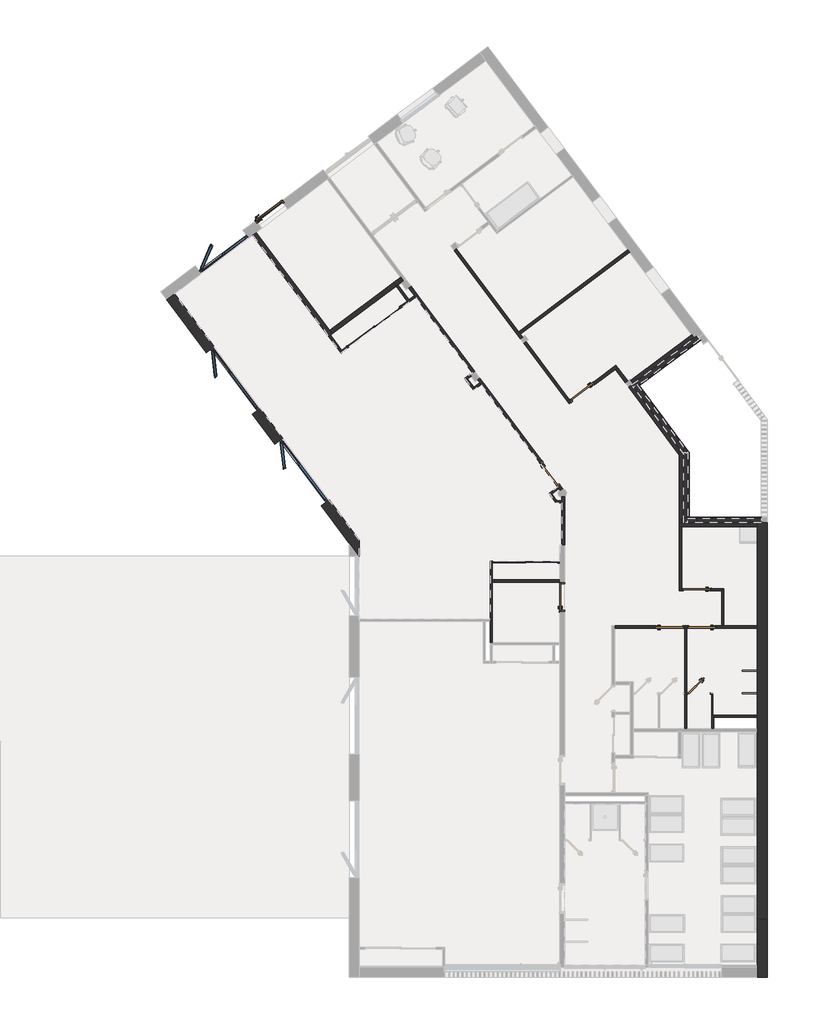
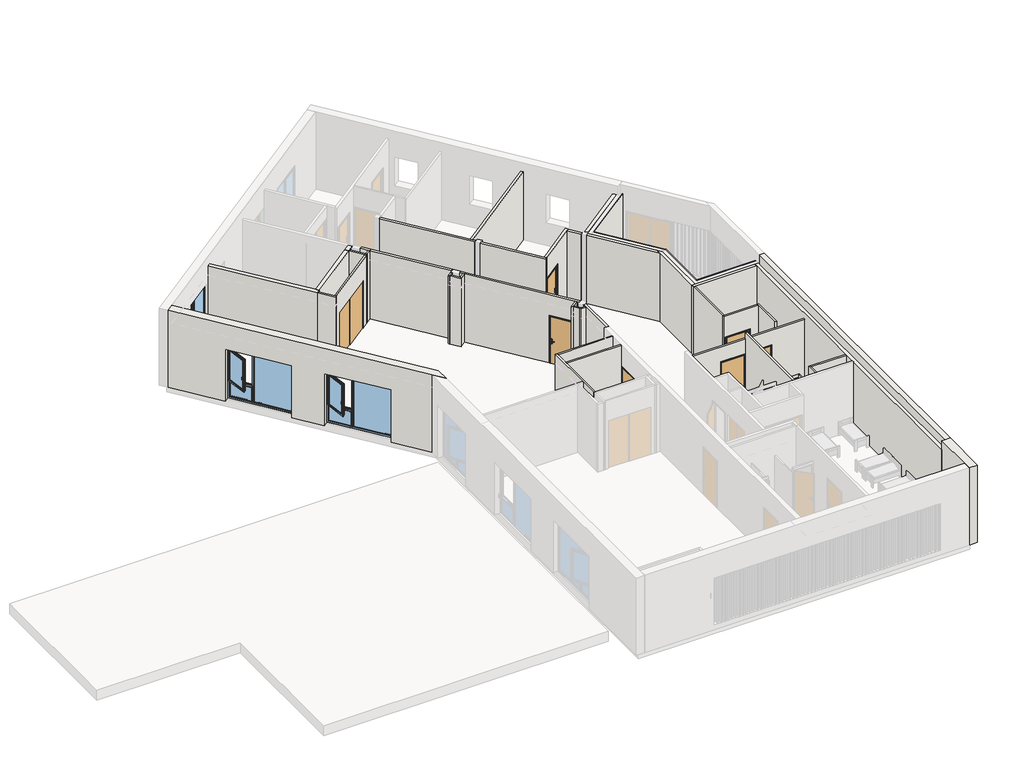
# One storey, part 2 of 4: 55 walls, 10 doors, 3 windows.
"""IFC4 building model written with IfcOpenShell, lengths in millimetres."""

from ifc_helpers import new_model, si_unit, frame, origin, place, context, project, spatial, polyline, outline, extrude, faceted_brep, transform, mapped, element, save
from components import door_1_10_x_2_25_61aac9a4, int_simple_pp_0_73m_x_2_04m_179cc70a, int_simple_pp_0_93m_x_2_04m_b2d4c190, int_simple_pp_0_93m_x_2_04m_4f2bf630, int_simple_pp_0_93m_x_2_04m_e56fa8e8, int_simple_pp_0_93m_x_2_04m_fca377b9, placard_coulissante_2_panneaux_placard_coulissante_2_81d75f8f, placard_coulissante_2_panneaux_placard_coulissante_2_653aa74b, window_49c83c31, window_247b9f68, window_944cba15, window_c5311feb

model = new_model("IFC4")

# Units and contexts
model_context = context("Model", 3, world=origin())
ifc_project = project(units=[si_unit("LENGTHUNIT", "METRE", prefix="MILLI")], contexts=[model_context])

# Site, building, storey
site = spatial("IfcSite", under=ifc_project)
building = spatial("IfcBuilding", under=site)
storey = spatial("IfcBuildingStorey", under=building, Name="1 Cdl 1er 3.95", Elevation=3950.0)

# Doors
placement = place(None, origin())
door_1_10_x_2_25_shape = door_1_10_x_2_25_61aac9a4(model_context)
element("IfcDoor", 1, ObjectType="Porte vitrée MéO : 1.10 x 2.25", at=placement, inside=storey, context=model_context, shape_type="MappedRepresentation", body=[
    mapped(door_1_10_x_2_25_shape, transform((-14696.0305048, 9775.4074152, 3950.0), x_axis=(-0.8000996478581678, -0.5998671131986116, 0.0), y_axis=(0.5998671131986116, -0.8000996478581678, 0.0), z_axis=(0.0, 0.0, 1.0))),
])
int_simple_pp_0_73m_x_2_04m_shape = int_simple_pp_0_73m_x_2_04m_179cc70a(model_context)
element("IfcDoor", 2, ObjectType="Int. Simple : PP (0.73m x 2.04m)", at=placement, inside=storey, context=model_context, shape_type="MappedRepresentation", body=[
    mapped(int_simple_pp_0_73m_x_2_04m_shape, transform((-208.9232835, -6492.3510598, 3950.0), x_axis=(-1.0, 0.0, 0.0), y_axis=(0.0, -1.0, 0.0), z_axis=(0.0, 0.0, 1.0))),
])
int_simple_pp_0_93m_x_2_04m_shape = int_simple_pp_0_93m_x_2_04m_b2d4c190(model_context)
element("IfcDoor", 3, ObjectType="Int. Simple : PP (0.93m x 2.04m)", at=placement, inside=storey, context=model_context, shape_type="MappedRepresentation", body=[
    mapped(int_simple_pp_0_93m_x_2_04m_shape, transform((-1150.3954629, -4237.3504346, 3950.0), x_axis=(1.0, 0.0, 0.0), y_axis=(0.0, 1.0, 0.0), z_axis=(0.0, 0.0, 1.0))),
])
element("IfcDoor", 4, ObjectType="Int. Simple : PP (0.93m x 2.04m)", at=placement, inside=storey, context=model_context, shape_type="MappedRepresentation", body=[
    mapped(int_simple_pp_0_93m_x_2_04m_shape, transform((-293.0765827, -2966.6217903, 3950.0), x_axis=(-1.0, 0.0, 0.0), y_axis=(0.0, -1.0, 0.0), z_axis=(0.0, 0.0, 1.0))),
])
int_simple_pp_0_93m_x_2_04m_2_shape = int_simple_pp_0_93m_x_2_04m_4f2bf630(model_context)
element("IfcDoor", 5, ObjectType="Int. Simple : PP (0.93m x 2.04m)", at=placement, inside=storey, context=model_context, shape_type="MappedRepresentation", body=[
    mapped(int_simple_pp_0_93m_x_2_04m_2_shape, transform((-4171.9652152, 3723.2192967, 3950.0), x_axis=(-0.8000994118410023, -0.5998674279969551, 0.0), y_axis=(0.5998674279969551, -0.8000994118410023, 0.0), z_axis=(0.0, 0.0, 1.0))),
])
element("IfcDoor", 6, ObjectType="Int. Simple : PP (0.93m x 2.04m)", at=placement, inside=storey, context=model_context, shape_type="MappedRepresentation", body=[
    mapped(int_simple_pp_0_93m_x_2_04m_2_shape, transform((-5227.8960413, 939.6066088, 3950.0), x_axis=(0.5998089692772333, -0.8001432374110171, 0.0), y_axis=(0.8001432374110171, 0.5998089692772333, 0.0), z_axis=(0.0, 0.0, 1.0))),
])
int_simple_pp_0_93m_x_2_04m_3_shape = int_simple_pp_0_93m_x_2_04m_e56fa8e8(model_context)
element("IfcDoor", 7, ObjectType="Int. Simple : PP (0.93m x 2.04m)", at=placement, inside=storey, context=model_context, shape_type="MappedRepresentation", body=[
    mapped(int_simple_pp_0_93m_x_2_04m_3_shape, transform((-120.3954629, -4237.3504346, 3950.0), x_axis=(-1.0, 0.0, 0.0), y_axis=(0.0, -1.0, 0.0), z_axis=(0.0, 0.0, 1.0))),
])
int_simple_pp_0_93m_x_2_04m_4_shape = int_simple_pp_0_93m_x_2_04m_fca377b9(model_context)
element("IfcDoor", 8, ObjectType="Int. Simple : PP (0.93m x 2.04m)", at=placement, inside=storey, context=model_context, shape_type="MappedRepresentation", body=[
    mapped(int_simple_pp_0_93m_x_2_04m_4_shape, transform((-4828.5161429, -3184.5655769, 3950.0), x_axis=(0.0, 1.0, 0.0), y_axis=(-1.0, 0.0, 0.0), z_axis=(0.0, 0.0, 1.0))),
])
placard_coulissante_2_panneaux_placard_coulissante_2_shape = placard_coulissante_2_panneaux_placard_coulissante_2_81d75f8f(model_context)
element("IfcDoor", 9, ObjectType="Placard coulissante - 2 panneaux : Placard coulissante - 2 panneaux 2.20", at=placement, inside=storey, context=model_context, shape_type="MappedRepresentation", body=[
    mapped(placard_coulissante_2_panneaux_placard_coulissante_2_shape, transform((-11220.3962593, 5958.0247234, 3950.0), x_axis=(-0.8000996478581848, -0.5998671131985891, 0.0), y_axis=(0.5998671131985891, -0.8000996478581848, 0.0), z_axis=(0.0, 0.0, 1.0))),
])
placard_coulissante_2_panneaux_placard_coulissante_2_2_shape = placard_coulissante_2_panneaux_placard_coulissante_2_653aa74b(model_context)
element("IfcDoor", 10, ObjectType="Placard coulissante - 2 panneaux : Placard coulissante - 2 panneaux 2.20", at=placement, inside=storey, context=model_context, shape_type="MappedRepresentation", body=[
    mapped(placard_coulissante_2_panneaux_placard_coulissante_2_2_shape, transform((-6085.4487902, -2040.7588726, 3950.0), x_axis=(1.0, 0.0, 0.0), y_axis=(0.0, 1.0, 0.0), z_axis=(0.0, 0.0, 1.0))),
])

# Walls
element("IfcWall", 11, ObjectType="A  Enduit 2 + Béton 18 + vide 1 +  Doublage 14", at=placement, inside=storey, context=model_context, shape_type="Brep", body=[
    faceted_brep([(2136.9234173, -16148.5662223, 3950.0), (2136.9234173, -14176.4188476, 3950.0), (2136.9234173, -14176.4188476, 7350.0), (2136.9234173, -16148.5662223, 7350.0), (1796.9234173, -16148.5662223, 3950.0), (1796.9234173, -16148.5662223, 7350.0), (1796.9234173, -15808.5662223, 7350.0), (1796.9234173, -14176.4188476, 7350.0), (1796.9234173, -14176.4188476, 6950.0), (1796.9234173, -14176.4188476, 3950.0), (1796.9234173, -15808.5662223, 3950.0), (1936.9234173, -14176.4188476, 7350.0)], [[[0, 1, 2, 3]], [[4, 5, 6, 7, 8, 9, 10]], [[1, 0, 4, 10, 9]], [[2, 1, 9, 8, 7, 11]], [[3, 2, 11, 7, 6, 5]], [[0, 3, 5, 4]]]),
])
element("IfcWall", 12, ObjectType="A Béton 20 + vide 1 +  Doublage 14", at=placement, inside=storey, context=model_context, shape_type="Brep", body=[
    faceted_brep([(2136.9234173, -14176.4188476, 3950.0), (2136.9234173, -692.3564392, 3950.0), (2136.9234173, -692.3564392, 6950.0), (2136.9234173, -762.3564392, 6950.0), (2136.9234173, -762.3564392, 7350.0), (2136.9234173, -14176.4188476, 7350.0), (1796.9234173, -692.3564392, 3950.0), (1796.9234173, -832.3564392, 3950.0), (1796.9234173, -14176.4188476, 3950.0), (1796.9234173, -14176.4188476, 6950.0), (1796.9234173, -832.3564392, 6950.0), (1796.9234173, -692.3564392, 6950.0), (1936.9234173, -692.3564392, 3950.0), (1936.9234173, -762.3564392, 7350.0), (1936.9234173, -14176.4188476, 7350.0), (1936.9234173, -14176.4188476, 6950.0), (1936.9234173, -762.3564392, 6950.0), (1936.9234173, -692.3564392, 6950.0)], [[[0, 1, 2, 3, 4, 5]], [[6, 7, 8, 9, 10, 11]], [[1, 0, 8, 7, 6, 12]], [[5, 4, 13, 14]], [[0, 5, 14, 15, 9, 8]], [[16, 15, 14, 13]], [[4, 3, 16, 13]], [[3, 2, 17, 11, 10, 9, 15, 16]], [[1, 12, 6, 11, 17, 2]]]),
])
element("IfcWall", 13, ObjectType="A Béton 20 + vide 1 +  Doublage 14", at=placement, inside=storey, context=model_context, shape_type="Brep", body=[
    faceted_brep([(-11725.9579574, -1851.3338689, 7350.0), (-12065.9579574, -1397.8436303, 7350.0), (-18273.0278755, 6881.1140695, 7350.0), (-18273.0278755, 6881.1140695, 3950.0), (-16931.613685, 5091.9427717, 3950.0), (-16931.613685, 5091.9427717, 6250.0), (-15359.9618484, 2995.6816944, 6250.0), (-15359.9618484, 2995.6816944, 3950.0), (-14598.136421, 1979.562886, 3950.0), (-14598.136421, 1979.562886, 6250.0), (-13026.4845844, -116.6981914, 6250.0), (-13026.4845844, -116.6981914, 3950.0), (-12065.9579574, -1397.8436303, 3950.0), (-11741.0032693, -1831.2665098, 3950.0), (-11741.0032693, -1831.2665098, 6250.0), (-11725.9579574, -1851.3338689, 6250.0), (-18000.9939952, 7085.068888, 7350.0), (-11725.9579574, -1284.5416702, 7350.0), (-11725.9579574, -1284.5416702, 3950.0), (-12754.4507041, 87.2566271, 3950.0), (-12754.4507041, 87.2566271, 6250.0), (-14326.1025407, 2183.5177045, 6250.0), (-14326.1025407, 2183.5177045, 3950.0), (-15087.9279681, 3199.6365128, 3950.0), (-15087.9279681, 3199.6365128, 6250.0), (-16659.5798047, 5295.8975902, 6250.0), (-16659.5798047, 5295.8975902, 3950.0), (-18000.9939952, 7085.068888, 3950.0), (-11725.9579574, -1831.2665098, 3950.0), (-11725.9579574, -1831.2665098, 6250.0)], [[[0, 1, 2, 3, 4, 5, 6, 7, 8, 9, 10, 11, 12, 13, 14, 15]], [[16, 17, 18, 19, 20, 21, 22, 23, 24, 25, 26, 27]], [[3, 27, 26, 4]], [[28, 13, 12, 11, 19, 18]], [[7, 23, 22, 8]], [[2, 1, 0, 17, 16]], [[3, 2, 16, 27]], [[18, 17, 0, 15, 29, 28]], [[14, 29, 15]], [[29, 14, 13, 28]], [[25, 5, 4, 26]], [[5, 25, 24, 6]], [[6, 24, 23, 7]], [[21, 9, 8, 22]], [[9, 21, 20, 10]], [[10, 20, 19, 11]]]),
])
element("IfcWall", 14, ObjectType="A cloison placostil 72 sèche", at=placement, inside=storey, context=model_context, shape_type="Brep", body=[
    faceted_brep([(1796.9234173, -4272.3504346, 3950.0), (1796.9234173, -4272.3504346, 6700.0), (-3050.395491, -4272.3504346, 6700.0), (-3050.395491, -4272.3504346, 3950.0), (-1685.3954629, -4272.3504346, 3950.0), (-1685.3954629, -4272.3504346, 6025.0), (-685.3954629, -4272.3504346, 6025.0), (-685.3954629, -4272.3504346, 3950.0), (-670.3954629, -4272.3504346, 3950.0), (-600.3954629, -4272.3504346, 3950.0), (-585.3954629, -4272.3504346, 3950.0), (-585.3954629, -4272.3504346, 6025.0), (414.6045371, -4272.3504346, 6025.0), (414.6045371, -4272.3504346, 3950.0), (1796.9234173, -4202.3504346, 6700.0), (1796.9234173, -4202.3504346, 3950.0), (669.6045371, -4202.3504346, 3950.0), (599.6045371, -4202.3504346, 3950.0), (414.6045371, -4202.3504346, 3950.0), (414.6045371, -4202.3504346, 6025.0), (-585.3954629, -4202.3504346, 6025.0), (-585.3954629, -4202.3504346, 3950.0), (-685.3954629, -4202.3504346, 3950.0), (-685.3954629, -4202.3504346, 6025.0), (-1685.3954629, -4202.3504346, 6025.0), (-1685.3954629, -4202.3504346, 3950.0), (-3050.395491, -4202.3504346, 3950.0), (-3050.395491, -4202.3504346, 6700.0)], [[[0, 1, 2, 3, 4, 5, 6, 7, 8, 9, 10, 11, 12, 13]], [[14, 15, 16, 17, 18, 19, 20, 21, 22, 23, 24, 25, 26, 27]], [[15, 0, 13, 18, 17, 16]], [[3, 26, 25, 4]], [[7, 22, 21, 10, 9, 8]], [[1, 0, 15, 14]], [[2, 1, 14, 27]], [[3, 2, 27, 26]], [[6, 23, 22, 7]], [[23, 6, 5, 24]], [[24, 5, 4, 25]], [[20, 11, 10, 21]], [[11, 20, 19, 12]], [[12, 19, 18, 13]]]),
])
element("IfcWall", 15, ObjectType="A cloison placostil 72 sèche", at=placement, inside=storey, context=model_context, shape_type="Brep", body=[
    faceted_brep([(669.6045371, -4202.3504346, 3950.0), (669.6045371, -2931.6217903, 3950.0), (669.6045371, -2931.6217903, 6950.0), (669.6045371, -4202.3504346, 6950.0), (599.6045371, -4202.3504346, 3950.0), (599.6045371, -4202.3504346, 6950.0), (599.6045371, -3001.6217903, 6950.0), (599.6045371, -2931.6217903, 6950.0), (599.6045371, -2931.6217903, 3950.0), (599.6045371, -3001.6217903, 3950.0)], [[[0, 1, 2, 3]], [[4, 5, 6, 7, 8, 9]], [[1, 0, 4, 9, 8]], [[3, 2, 7, 6, 5]], [[0, 3, 5, 4]], [[2, 1, 8, 7]]]),
])
element("IfcWall", 16, ObjectType="A cloison placostil 72 sèche", at=placement, inside=storey, context=model_context, shape_type="Brep", body=[
    faceted_brep([(-843.0765827, -2931.6217903, 6950.0), (-773.0765827, -2931.6217903, 6950.0), (599.6045371, -2931.6217903, 6950.0), (599.6045371, -2931.6217903, 3950.0), (241.9234173, -2931.6217903, 3950.0), (241.9234173, -2931.6217903, 6025.0), (-758.0765827, -2931.6217903, 6025.0), (-758.0765827, -2931.6217903, 3950.0), (-773.0765827, -2931.6217903, 3950.0), (-843.0765827, -2931.6217903, 3950.0), (599.6045371, -3001.6217903, 6950.0), (-843.0765827, -3001.6217903, 6950.0), (-843.0765827, -3001.6217903, 3950.0), (-758.0765827, -3001.6217903, 3950.0), (-758.0765827, -3001.6217903, 6025.0), (241.9234173, -3001.6217903, 6025.0), (241.9234173, -3001.6217903, 3950.0), (599.6045371, -3001.6217903, 3950.0)], [[[0, 1, 2, 3, 4, 5, 6, 7, 8, 9]], [[10, 11, 12, 13, 14, 15, 16, 17]], [[3, 17, 16, 4]], [[12, 9, 8, 7, 13]], [[2, 1, 0, 11, 10]], [[3, 2, 10, 17]], [[0, 9, 12, 11]], [[6, 14, 13, 7]], [[14, 6, 5, 15]], [[15, 5, 4, 16]]]),
])
element("IfcWall", 17, ObjectType="A cloison placostil 72 sèche", at=placement, inside=storey, context=model_context, shape_type="SweptSolid", body=[
    extrude(outline(polyline([(-773.0765827, -832.3564392), (-773.0765827, -2931.6217903), (-843.0765827, -2931.6217903), (-843.0765827, -832.3564392), (-773.0765827, -832.3564392)])), frame((0.0, 0.0, 3950.0), z_axis=(0.0, 0.0, 1.0), x_axis=(1.0, 0.0, 0.0)), (0.0, 0.0, 1.0), 3000.0),
])
element("IfcWall", 18, ObjectType="A cloison placostil 72 sèche", at=placement, inside=storey, context=model_context, shape_type="SweptSolid", body=[
    extrude(outline(polyline([(-600.3954629, -4272.3504346), (-600.3954629, -7702.5539694), (-670.3954629, -7702.5539694), (-670.3954629, -4272.3504346), (-600.3954629, -4272.3504346)])), frame((0.0, 0.0, 3950.0), z_axis=(0.0, 0.0, 1.0), x_axis=(1.0, 0.0, 0.0)), (0.0, 0.0, 1.0), 3000.0),
])
element("IfcWall", 19, ObjectType="A cloison placostil 72 sèche", at=placement, inside=storey, context=model_context, shape_type="Brep", body=[
    faceted_brep([(-7202.3814374, -4776.0460811, 3950.0), (-7202.3814374, -2708.5655769, 3950.0), (-7202.3814374, -2638.5655769, 3950.0), (-7202.3814374, -2075.7588726, 3950.0), (-7202.3814374, -2005.7588726, 3950.0), (-7202.3814374, -2005.7588726, 6950.0), (-7202.3814374, -2075.7588726, 6950.0), (-7202.3814374, -2638.5655769, 6950.0), (-7202.3814374, -2708.5655769, 6950.0), (-7202.3814374, -4776.0460811, 6950.0), (-7272.3814374, -4776.0460811, 3950.0), (-7272.3814374, -4776.0460811, 6950.0), (-7272.3814374, -4042.1419324, 6950.0), (-7272.3814374, -3972.1419324, 6950.0), (-7272.3814374, -2005.7588726, 6950.0), (-7272.3814374, -2005.7588726, 3950.0), (-7272.3814374, -3972.1419324, 3950.0), (-7272.3814374, -4042.1419324, 3950.0)], [[[0, 1, 2, 3, 4, 5, 6, 7, 8, 9]], [[10, 11, 12, 13, 14, 15, 16, 17]], [[4, 3, 2, 1, 0, 10, 17, 16, 15]], [[9, 8, 7, 6, 5, 14, 13, 12, 11]], [[0, 9, 11, 10]], [[5, 4, 15, 14]]]),
])
element("IfcWall", 20, ObjectType="A cloison placostil 72 sèche", at=placement, inside=storey, context=model_context, shape_type="SweptSolid", body=[
    extrude(outline(polyline([(6950.0, -4918.5161429), (6950.0, -7202.3814374), (3950.0, -7202.3814374), (3950.0, -7185.4487902), (6050.0, -7185.4487902), (6050.0, -4985.4487902), (3950.0, -4985.4487902), (3950.0, -4918.5161429), (6950.0, -4918.5161429)])), frame((0.0, -2075.7588726, 0.0), z_axis=(0.0, 1.0, 0.0), x_axis=(0.0, 0.0, 1.0)), (0.0, 0.0, 1.0), 70.0),
])
element("IfcWall", 21, ObjectType="A cloison placostil 72 sèche", at=placement, inside=storey, context=model_context, shape_type="SweptSolid", body=[
    extrude(outline(polyline([(-4918.5161429, -2708.5655769), (-7202.3814374, -2708.5655769), (-7202.3814374, -2638.5655769), (-4918.5161429, -2638.5655769), (-4918.5161429, -2708.5655769)])), frame((0.0, 0.0, 3950.0), z_axis=(0.0, 0.0, 1.0), x_axis=(1.0, 0.0, 0.0)), (0.0, 0.0, 1.0), 3000.0),
])
element("IfcWall", 22, ObjectType="A cloison placostil 72 sèche", at=placement, inside=storey, context=model_context, shape_type="Brep", body=[
    faceted_brep([(322.548896, -7702.5539694, 3950.0), (322.548896, -7304.3232508, 3950.0), (322.548896, -7234.3232508, 3950.0), (322.548896, -7234.3232508, 6950.0), (322.548896, -7304.3232508, 6950.0), (322.548896, -7702.5539694, 6950.0), (252.548896, -7702.5539694, 3950.0), (252.548896, -7702.5539694, 6950.0), (252.548896, -7234.3232508, 6950.0), (252.548896, -7234.3232508, 3950.0)], [[[0, 1, 2, 3, 4, 5]], [[6, 7, 8, 9]], [[2, 1, 0, 6, 9]], [[5, 4, 3, 8, 7]], [[0, 5, 7, 6]], [[3, 2, 9, 8]]]),
])
element("IfcWall", 23, ObjectType="A cloison placostil 72 sèche", at=placement, inside=storey, context=model_context, shape_type="SweptSolid", body=[
    extrude(outline(polyline([(1796.9234173, -7304.3232508), (322.548896, -7304.3232508), (322.548896, -7234.3232508), (1796.9234173, -7234.3232508), (1796.9234173, -7304.3232508)])), frame((0.0, 0.0, 3950.0), z_axis=(0.0, 0.0, 1.0), x_axis=(1.0, 0.0, 0.0)), (0.0, 0.0, 1.0), 3000.0),
])
element("IfcWall", 24, ObjectType="A cloison placostil 98 sèche", at=placement, inside=storey, context=model_context, shape_type="Brep", body=[
    faceted_brep([(-6134.9037126, 5399.4995717, 3950.0), (-4594.0280115, 3344.2892293, 3950.0), (-4594.0280115, 3344.2892293, 6950.0), (-6134.9037126, 5399.4995717, 6950.0), (-6054.8937714, 5459.4863145, 6950.0), (-4574.0048132, 3484.2859133, 6950.0), (-4514.0180704, 3404.2759721, 6950.0), (-4514.0180704, 3404.2759721, 6025.0), (-4514.0180704, 3404.2759721, 3950.0), (-4574.0048132, 3484.2859133, 3950.0), (-6054.8937714, 5459.4863145, 3950.0)], [[[0, 1, 2, 3]], [[4, 5, 6, 7, 8, 9, 10]], [[1, 0, 10, 9, 8]], [[3, 2, 6, 5, 4]], [[0, 3, 4, 10]], [[2, 1, 8, 7, 6]]]),
])
element("IfcWall", 25, ObjectType="A cloison placostil 98 sèche", at=placement, inside=storey, context=model_context, shape_type="Brep", body=[
    faceted_brep([(-2944.9224639, 4580.6914672, 6950.0), (-3024.9324051, 4520.7047244, 6950.0), (-4514.0180704, 3404.2759721, 6950.0), (-4514.0180704, 3404.2759721, 6025.0), (-3713.9186585, 4004.1434001, 6025.0), (-3713.9186585, 4004.1434001, 3950.0), (-3024.9324051, 4520.7047244, 3950.0), (-2944.9224639, 4580.6914672, 3950.0), (-4574.0048132, 3484.2859133, 6950.0), (-3004.9092067, 4660.7014084, 6950.0), (-3004.9092067, 4660.7014084, 3950.0), (-3773.9054013, 4084.1533413, 3950.0), (-3773.9054013, 4084.1533413, 6025.0), (-4574.0048132, 3484.2859133, 6025.0)], [[[0, 1, 2, 3, 4, 5, 6, 7]], [[8, 9, 10, 11, 12, 13]], [[10, 7, 6, 5, 11]], [[2, 1, 0, 9, 8]], [[2, 8, 13, 3]], [[0, 7, 10, 9]], [[12, 4, 3, 13]], [[4, 12, 11, 5]]]),
])
element("IfcWall", 26, ObjectType="A cloison placostil 98 sèche", at=placement, inside=storey, context=model_context, shape_type="SweptSolid", body=[
    extrude(outline(polyline([(-2687.1952496, 4070.2330253), (-3024.9324051, 4520.7047244), (-2944.9224639, 4580.6914672), (-2607.1853084, 4130.2197681), (-2687.1952496, 4070.2330253)])), frame((0.0, 0.0, 3950.0), z_axis=(0.0, 0.0, 1.0), x_axis=(1.0, 0.0, 0.0)), (0.0, 0.0, 1.0), 3000.0),
])
element("IfcWall", 27, ObjectType="A cloison placostil 98 sèche", at=placement, inside=storey, context=model_context, shape_type="Brep", body=[
    faceted_brep([(-6174.8673042, 5619.5062599, 3950.0), (-6250.8904159, 5720.9054095, 3950.0), (-6310.8771587, 5800.9153507, 3950.0), (-8423.9911752, 8619.3735716, 3950.0), (-8423.9911752, 8619.3735716, 6950.0), (-6310.8771587, 5800.9153507, 6950.0), (-6250.8904159, 5720.9054095, 6950.0), (-6174.8673042, 5619.5062599, 6950.0), (-6254.8772454, 5559.5195171, 3950.0), (-6254.8772454, 5559.5195171, 6950.0), (-8504.0011164, 8559.3868288, 6950.0), (-8504.0011164, 8559.3868288, 3950.0)], [[[0, 1, 2, 3, 4, 5, 6, 7]], [[8, 9, 10, 11]], [[3, 2, 1, 0, 8, 11]], [[4, 3, 11, 10]], [[7, 6, 5, 4, 10, 9]], [[0, 7, 9, 8]]]),
])
element("IfcWall", 28, ObjectType="A cloison placostil 98 sèche", at=placement, inside=storey, context=model_context, shape_type="SweptSolid", body=[
    extrude(outline(polyline([(-2539.3284757, 8503.613729), (-6250.8904159, 5720.9054095), (-6310.8771587, 5800.9153507), (-2599.315187, 8583.6236938), (-2539.3284757, 8503.613729)])), frame((0.0, 0.0, 3950.0), z_axis=(0.0, 0.0, 1.0), x_axis=(1.0, 0.0, 0.0)), (0.0, 0.0, 1.0), 3000.0),
])
element("IfcWall", 29, ObjectType="A cloison placostil 140 sèche", at=placement, inside=storey, context=model_context, shape_type="Brep", body=[
    faceted_brep([(-15341.401053, 9079.0734408, 3950.0), (-12759.3851365, 5635.193988, 3950.0), (-12759.3851365, 5635.193988, 6950.0), (-15341.401053, 9079.0734408, 6950.0), (-15221.3861058, 9169.0535078, 3950.0), (-15221.3861058, 9169.0535078, 6950.0), (-12729.3502563, 5845.1890022, 6950.0), (-12639.3701893, 5725.174055, 6950.0), (-12639.3701893, 5725.174055, 3950.0), (-12729.3502563, 5845.1890022, 3950.0), (-12703.3781612, 5677.1846859, 3950.0), (-12703.3781612, 5677.1846859, 6950.0)], [[[0, 1, 2, 3]], [[4, 5, 6, 7, 8, 9]], [[1, 0, 4, 9, 8, 10]], [[3, 2, 11, 7, 6, 5]], [[0, 3, 5, 4]], [[2, 1, 10, 8, 7, 11]]]),
])
element("IfcWall", 30, ObjectType="A cloison placostil 140 sèche", at=placement, inside=storey, context=model_context, shape_type="SweptSolid", body=[
    extrude(outline(polyline([(-10475.6737529, 7347.3849116), (-12639.3701893, 5725.174055), (-12729.3502563, 5845.1890022), (-10565.6538199, 7467.3998588), (-10475.6737529, 7347.3849116)])), frame((0.0, 0.0, 3950.0), z_axis=(0.0, 0.0, 1.0), x_axis=(1.0, 0.0, 0.0)), (0.0, 0.0, 1.0), 3000.0),
])
element("IfcWall", 31, ObjectType="A cloison placostil 72 sèche", at=placement, inside=storey, context=model_context, shape_type="Brep", body=[
    faceted_brep([(-10475.6737529, 7347.3849116, 3950.0), (-10055.9764866, 6787.5948721, 3950.0), (-10055.9764866, 6787.5948721, 6950.0), (-10475.6737529, 7347.3849116, 6950.0), (-10419.6667776, 7389.3756095, 3950.0), (-10419.6667776, 7389.3756095, 6950.0), (-10041.9602092, 6885.5925454, 6950.0), (-9999.9695112, 6829.58557, 6950.0), (-9999.9695112, 6829.58557, 3950.0), (-10041.9602092, 6885.5925454, 3950.0)], [[[0, 1, 2, 3]], [[4, 5, 6, 7, 8, 9]], [[1, 0, 4, 9, 8]], [[3, 2, 7, 6, 5]], [[2, 1, 8, 7]], [[0, 3, 5, 4]]]),
])
element("IfcWall", 32, ObjectType="A cloison placostil 72 sèche", at=placement, inside=storey, context=model_context, shape_type="SweptSolid", body=[
    extrude(outline(polyline([(-9812.6424921, 6970.0322238), (-9999.9695112, 6829.58557), (-10041.9602092, 6885.5925454), (-9854.63319, 7026.0391991), (-9812.6424921, 6970.0322238)])), frame((0.0, 0.0, 3950.0), z_axis=(0.0, 0.0, 1.0), x_axis=(1.0, 0.0, 0.0)), (0.0, 0.0, 1.0), 3000.0),
])
element("IfcWall", 33, ObjectType="A cloison placostil 98 sèche", at=placement, inside=storey, context=model_context, shape_type="SweptSolid", body=[
    extrude(outline(polyline([(-9811.0155959, 6971.4233711), (-10043.2419039, 7281.1656176), (-9963.2319391, 7341.1523289), (-9731.0056311, 7031.4100824), (-9811.0155959, 6971.4233711)])), frame((0.0, 0.0, 3950.0), z_axis=(0.0, 0.0, 1.0), x_axis=(1.0, 0.0, 0.0)), (0.0, 0.0, 1.0), 3000.0),
])
element("IfcWall", 34, ObjectType="A cloison placostil 98 sèche", at=placement, inside=storey, context=model_context, shape_type="SweptSolid", body=[
    extrude(outline(polyline([(-7884.7889511, 4399.9222442), (-9810.878416, 6971.5568646), (-9730.8390453, 7031.5043344), (-7804.7495804, 4459.869714), (-7884.7889511, 4399.9222442)])), frame((0.0, 0.0, 3950.0), z_axis=(0.0, 0.0, 1.0), x_axis=(1.0, 0.0, 0.0)), (0.0, 0.0, 1.0), 3000.0),
])
element("IfcWall", 35, ObjectType="A cloison placostil 98 sèche", at=placement, inside=storey, context=model_context, shape_type="SweptSolid", body=[
    extrude(outline(polyline([(-7586.8909269, 4003.1383314), (-7704.7711592, 4159.5706832), (-7624.9076082, 4219.7521855), (-7506.9518637, 4063.2196256), (-7586.8909269, 4003.1383314)])), frame((0.0, 0.0, 3950.0), z_axis=(0.0, 0.0, 1.0), x_axis=(1.0, 0.0, 0.0)), (0.0, 0.0, 1.0), 3000.0),
])
element("IfcWall", 36, ObjectType="A cloison placostil 98 sèche", at=placement, inside=storey, context=model_context, shape_type="Brep", body=[
    faceted_brep([(-4891.9641752, 408.1147053, 3950.0), (-4891.9641752, 408.1147053, 6950.0), (-4938.00827, 469.5373798, 6950.0), (-4979.9948979, 525.5474064, 6950.0), (-7586.8909269, 4003.1383314, 6950.0), (-7586.8909269, 4003.1383314, 3950.0), (-5588.8010017, 1337.6927924, 3950.0), (-5588.8010017, 1337.6927924, 6025.0), (-4988.9920324, 537.5495549, 6025.0), (-4988.9920324, 537.5495549, 3950.0), (-4979.9948979, 525.5474064, 3950.0), (-4938.00827, 469.5373798, 3950.0), (-4811.9498515, 468.0956022, 6950.0), (-4811.9498515, 468.0956022, 3950.0), (-4908.9777087, 597.5304519, 3950.0), (-4908.9777087, 597.5304519, 6025.0), (-5508.7866779, 1397.6736893, 6025.0), (-5508.7866779, 1397.6736893, 3950.0), (-7506.9518637, 4063.2196256, 3950.0), (-7506.9518637, 4063.2196256, 6950.0)], [[[0, 1, 2, 3, 4, 5, 6, 7, 8, 9, 10, 11]], [[12, 13, 14, 15, 16, 17, 18, 19]], [[13, 0, 11, 10, 9, 14]], [[5, 18, 17, 6]], [[1, 0, 13, 12]], [[4, 3, 2, 1, 12, 19]], [[5, 4, 19, 18]], [[8, 15, 14, 9]], [[15, 8, 7, 16]], [[16, 7, 6, 17]]]),
])
element("IfcWall", 37, ObjectType="A cloison placostil 72 sèche", at=placement, inside=storey, context=model_context, shape_type="Brep", body=[
    faceted_brep([(-4979.9948979, 525.5474064, 3950.0), (-5276.0258591, 303.634607, 3950.0), (-5276.0258591, 303.634607, 6950.0), (-4979.9948979, 525.5474064, 6950.0), (-4938.00827, 469.5373798, 3950.0), (-4938.00827, 469.5373798, 6950.0), (-5178.0292047, 289.6112082, 6950.0), (-5234.0392313, 247.6245803, 6950.0), (-5234.0392313, 247.6245803, 3950.0), (-5178.0292047, 289.6112082, 3950.0)], [[[0, 1, 2, 3]], [[4, 5, 6, 7, 8, 9]], [[1, 0, 4, 9, 8]], [[3, 2, 7, 6, 5]], [[0, 3, 5, 4]], [[2, 1, 8, 7]]]),
])
element("IfcWall", 38, ObjectType="A cloison placostil 72 sèche", at=placement, inside=storey, context=model_context, shape_type="SweptSolid", body=[
    extrude(outline(polyline([(-5094.9246107, 62.0461236), (-5234.0392313, 247.6245803), (-5178.0292047, 289.6112082), (-5007.4402745, 62.0461236), (-5094.9246107, 62.0461236)])), frame((0.0, 0.0, 3950.0), z_axis=(0.0, 0.0, 1.0), x_axis=(1.0, 0.0, 0.0)), (0.0, 0.0, 1.0), 3000.0),
])
element("IfcWall", 39, ObjectType="A cloison placostil 72 sèche", at=placement, inside=storey, context=model_context, shape_type="Brep", body=[
    faceted_brep([(-4838.5161429, 62.0461236, 3950.0), (-5007.4402745, 62.0461236, 3950.0), (-5094.9246107, 62.0461236, 3950.0), (-5094.9246107, 62.0461236, 6950.0), (-5007.4402745, 62.0461236, 6950.0), (-4838.5161429, 62.0461236, 6950.0), (-4838.5161429, -7.9538764, 3950.0), (-4838.5161429, -7.9538764, 6950.0), (-5042.4507212, -7.9538764, 6950.0), (-5042.4507212, -7.9538764, 3950.0)], [[[0, 1, 2, 3, 4, 5]], [[6, 7, 8, 9]], [[2, 1, 0, 6, 9]], [[5, 4, 3, 8, 7]], [[3, 2, 9, 8]], [[0, 5, 7, 6]]]),
])
element("IfcWall", 40, ObjectType="A cloison placostil 98 sèche", at=placement, inside=storey, context=model_context, shape_type="Brep", body=[
    faceted_brep([(-4838.5161429, 198.0461236, 3950.0), (-4838.5161429, 62.0461236, 3950.0), (-4838.5161429, -7.9538764, 3950.0), (-4838.5161429, -1453.5126421, 3950.0), (-4838.5161429, -1453.5126421, 6950.0), (-4838.5161429, -7.9538764, 6950.0), (-4838.5161429, 62.0461236, 6950.0), (-4838.5161429, 198.0461236, 6950.0), (-4738.5161429, 198.0461236, 3950.0), (-4738.5161429, 198.0461236, 6950.0), (-4738.5161429, -1453.5126421, 6950.0), (-4738.5161429, -1453.5126421, 3950.0)], [[[0, 1, 2, 3, 4, 5, 6, 7]], [[8, 9, 10, 11]], [[3, 2, 1, 0, 8, 11]], [[4, 3, 11, 10]], [[7, 6, 5, 4, 10, 9]], [[0, 7, 9, 8]]]),
])
element("IfcWall", 41, ObjectType="A cloison placostil 72 sèche", at=placement, inside=storey, context=model_context, shape_type="Brep", body=[
    faceted_brep([(-7969.0813636, 4346.0350107, 3950.0), (-8146.0387932, 4213.4983594, 3950.0), (-8146.0387932, 4213.4983594, 6950.0), (-7969.0813636, 4346.0350107, 6950.0), (-7927.1181348, 4290.0074512, 3950.0), (-7927.1181348, 4290.0074512, 6950.0), (-8047.8837616, 4199.5570428, 6950.0), (-8103.9115611, 4157.5936342, 6950.0), (-8103.9115611, 4157.5936342, 3950.0), (-8047.8837616, 4199.5570428, 3950.0)], [[[0, 1, 2, 3]], [[4, 5, 6, 7, 8, 9]], [[1, 0, 4, 9, 8]], [[3, 2, 7, 6, 5]], [[0, 3, 5, 4]], [[2, 1, 8, 7]]]),
])
element("IfcWall", 42, ObjectType="A cloison placostil 72 sèche", at=placement, inside=storey, context=model_context, shape_type="Brep", body=[
    faceted_brep([(-8103.9115611, 4157.5936342, 3950.0), (-7843.1242404, 3811.5171707, 3950.0), (-7843.1242404, 3811.5171707, 6950.0), (-8103.9115611, 4157.5936342, 6950.0), (-8047.8837616, 4199.5570428, 3950.0), (-8047.8837616, 4199.5570428, 6950.0), (-7829.2412217, 3909.4085925, 6950.0), (-7787.1140375, 3853.5039308, 6950.0), (-7787.1140375, 3853.5039308, 3950.0), (-7829.2412217, 3909.4085925, 3950.0)], [[[0, 1, 2, 3]], [[4, 5, 6, 7, 8, 9]], [[1, 0, 4, 9, 8]], [[3, 2, 7, 6, 5]], [[0, 3, 5, 4]], [[2, 1, 8, 7]]]),
])
element("IfcWall", 43, ObjectType="A cloison placostil 72 sèche", at=placement, inside=storey, context=model_context, shape_type="SweptSolid", body=[
    extrude(outline(polyline([(-7587.3048484, 4003.2862924), (-7787.1140375, 3853.5039308), (-7829.2412217, 3909.4085925), (-7629.2914763, 4059.296319), (-7587.3048484, 4003.2862924)])), frame((0.0, 0.0, 3950.0), z_axis=(0.0, 0.0, 1.0), x_axis=(1.0, 0.0, 0.0)), (0.0, 0.0, 1.0), 3000.0),
])
element("IfcWall", 44, ObjectType="A cloison placostil 140 sèche", at=placement, inside=storey, context=model_context, shape_type="Brep", body=[
    faceted_brep([(-10321.707641, 7650.2961899, 3950.0), (-10565.6538199, 7467.3998588, 3950.0), (-10565.6538199, 7467.3998588, 6950.0), (-10321.707641, 7650.2961899, 6950.0), (-10231.7275741, 7530.2812427, 3950.0), (-10231.7275741, 7530.2812427, 6950.0), (-10419.6667776, 7389.3756095, 6950.0), (-10475.6737529, 7347.3849116, 6950.0), (-10475.6737529, 7347.3849116, 3950.0), (-10419.6667776, 7389.3756095, 3950.0)], [[[0, 1, 2, 3]], [[4, 5, 6, 7, 8, 9]], [[1, 0, 4, 9, 8]], [[3, 2, 7, 6, 5]], [[0, 3, 5, 4]], [[2, 1, 8, 7]]]),
])
element("IfcWall", 45, ObjectType="A cloison placostil 72 sèche", at=placement, inside=storey, context=model_context, shape_type="Brep", body=[
    faceted_brep([(-12759.3851365, 5635.193988, 3950.0), (-12339.5429086, 5075.2105994, 3950.0), (-12339.5429086, 5075.2105994, 6950.0), (-12759.3851365, 5635.193988, 6950.0), (-12703.3781612, 5677.1846859, 3950.0), (-12703.3781612, 5677.1846859, 6950.0), (-12325.5266311, 5173.2082727, 6950.0), (-12283.5359332, 5117.2012974, 6950.0), (-12283.5359332, 5117.2012974, 3950.0), (-12325.5266311, 5173.2082727, 3950.0)], [[[0, 1, 2, 3]], [[4, 5, 6, 7, 8, 9]], [[1, 0, 4, 9, 8]], [[3, 2, 7, 6, 5]], [[0, 3, 5, 4]], [[2, 1, 8, 7]]]),
])
element("IfcWall", 46, ObjectType="A cloison placostil 72 sèche", at=placement, inside=storey, context=model_context, shape_type="SweptSolid", body=[
    extrude(outline(polyline([(2853.9828413, 0.0), (2853.9828413, -3000.0), (69.8676857, -3000.0), (69.8676857, 0.0), (324.8676856, 0.0), (324.8676856, -2100.0), (2524.8676857, -2100.0), (2524.8676857, 0.0), (2853.9828413, 0.0)])), frame((-12339.4370439, 5075.2899705, 3950.0), z_axis=(-0.5998671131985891, 0.8000996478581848, 0.0), x_axis=(0.8000996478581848, 0.5998671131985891, 0.0)), (0.0, 0.0, 1.0), 70.0),
])
element("IfcWall", 47, ObjectType="A vide 1 +  Doublage 13", at=placement, inside=storey, context=model_context, shape_type="Brep", body=[
    faceted_brep([(1796.9234173, -692.3564392, 3950.0), (-843.0765827, -692.3564392, 3950.0), (-843.0765827, -692.3564392, 6950.0), (1796.9234173, -692.3564392, 6950.0), (1796.9234173, -832.3564392, 3950.0), (1796.9234173, -832.3564392, 6950.0), (-773.0765827, -832.3564392, 6950.0), (-843.0765827, -832.3564392, 6950.0), (-843.0765827, -832.3564392, 3950.0), (-773.0765827, -832.3564392, 3950.0)], [[[0, 1, 2, 3]], [[4, 5, 6, 7, 8, 9]], [[1, 0, 4, 9, 8]], [[3, 2, 7, 6, 5]], [[0, 3, 5, 4]], [[2, 1, 8, 7]]]),
])
element("IfcWall", 48, ObjectType="A vide 1 +  Doublage 13", at=placement, inside=storey, context=model_context, shape_type="Brep", body=[
    faceted_brep([(-703.0710496, -700.9448789, 3950.0), (-703.0710496, 1648.3511697, 3950.0), (-703.0710496, 1648.3511697, 6950.0), (-703.0710496, -700.9448789, 6950.0), (-843.0710496, -700.9448789, 3950.0), (-843.0710496, -700.9448789, 6950.0), (-843.0710496, 1601.759072, 6950.0), (-843.0710496, 1835.3912182, 6950.0), (-843.0710496, 1835.3912182, 3950.0), (-843.0710496, 1601.759072, 3950.0)], [[[0, 1, 2, 3]], [[4, 5, 6, 7, 8, 9]], [[1, 0, 4, 9, 8]], [[3, 2, 7, 6, 5]], [[0, 3, 5, 4]], [[2, 1, 8, 7]]]),
])
element("IfcWall", 49, ObjectType="A vide 1 +  Doublage 13", at=placement, inside=storey, context=model_context, shape_type="SweptSolid", body=[
    extrude(outline(polyline([(-2457.2002277, 3991.8683594), (-843.0710496, 1835.3912182), (-843.0710496, 1601.759072), (-2569.2807236, 3907.9757944), (-2457.2002277, 3991.8683594)])), frame((0.0, 0.0, 3950.0), z_axis=(0.0, 0.0, 1.0), x_axis=(1.0, 0.0, 0.0)), (0.0, 0.0, 1.0), 3000.0),
])
element("IfcWall", 50, ObjectType="A vide 1 +  Doublage 13", at=placement, inside=storey, context=model_context, shape_type="SweptSolid", body=[
    extrude(outline(polyline([(-347.7196132, 5579.6034742), (-2409.7646905, 4033.6047587), (-2493.7460864, 4145.6187094), (-431.701009, 5691.6174249), (-347.7196132, 5579.6034742)])), frame((0.0, 0.0, 3950.0), z_axis=(0.0, 0.0, 1.0), x_axis=(1.0, 0.0, 0.0)), (0.0, 0.0, 1.0), 3000.0),
])
element("IfcWall", 51, ObjectType="A OSB 12 + éternit 9", at=placement, inside=storey, context=model_context, shape_type="Brep", body=[
    faceted_brep([(1936.9234173, -506.2304389, 6950.0), (1936.9234173, -506.2304389, 6250.0), (1936.9234173, -506.2304389, 4150.0), (1936.9234173, -506.2304389, 3990.0), (-518.0765827, -506.2304389, 3990.0), (-539.0765827, -506.2304389, 3990.0), (-539.0765827, -506.2304389, 6950.0), (-518.0765827, -506.2304389, 6950.0), (1936.9234173, -527.2304389, 3990.0), (1936.9234173, -527.2304389, 6950.0), (-539.0765827, -527.2304389, 6950.0), (-539.0765827, -527.2304389, 3990.0)], [[[0, 1, 2, 3, 4, 5, 6, 7]], [[8, 9, 10, 11]], [[5, 4, 3, 8, 11]], [[0, 7, 6, 10, 9]], [[0, 9, 8, 3, 2, 1]], [[6, 5, 11, 10]]]),
])
element("IfcWall", 52, ObjectType="A OSB 12 + éternit 9", at=placement, inside=storey, context=model_context, shape_type="Brep", body=[
    faceted_brep([(-518.0765827, -506.2304389, 3990.0), (-518.0765827, 1710.1332379, 3990.0), (-518.0765827, 1710.1332379, 6950.0), (-518.0765827, -506.2304389, 6950.0), (-539.0765827, -506.2304389, 3990.0), (-539.0765827, -506.2304389, 6950.0), (-539.0765827, 1703.1351757, 6950.0), (-539.0765827, 1738.1429291, 6950.0), (-539.0765827, 1738.1429291, 3990.0), (-539.0765827, 1703.1351757, 3990.0)], [[[0, 1, 2, 3]], [[4, 5, 6, 7, 8, 9]], [[1, 0, 4, 9, 8]], [[3, 2, 7, 6, 5]], [[0, 3, 5, 4]], [[2, 1, 8, 7]]]),
])
element("IfcWall", 53, ObjectType="A OSB 12 + éternit 9", at=placement, inside=storey, context=model_context, shape_type="Brep", body=[
    faceted_brep([(-539.0765827, 1738.1429291, 3990.0), (-2202.5034366, 3956.8130491, 3990.0), (-2215.100646, 3973.6151417, 3990.0), (-2215.100646, 3973.6151417, 6950.0), (-2202.5034366, 3956.8130491, 6950.0), (-539.0765827, 1738.1429291, 6950.0), (-539.0765827, 1703.1351757, 3990.0), (-539.0765827, 1703.1351757, 6950.0), (-2231.9027386, 3961.0179323, 6950.0), (-2231.9027386, 3961.0179323, 3990.0)], [[[0, 1, 2, 3, 4, 5]], [[6, 7, 8, 9]], [[2, 1, 0, 6, 9]], [[5, 4, 3, 8, 7]], [[0, 5, 7, 6]], [[3, 2, 9, 8]]]),
])
element("IfcWall", 54, ObjectType="A OSB 12 + éternit 9", at=placement, inside=storey, context=model_context, shape_type="SweptSolid", body=[
    extrude(outline(polyline([(-124.268211, 5514.9501745), (-2202.5034366, 3956.8130491), (-2215.100646, 3973.6151417), (-136.8654203, 5531.7522671), (-124.268211, 5514.9501745)])), frame((0.0, 0.0, 3990.0), z_axis=(0.0, 0.0, 1.0), x_axis=(1.0, 0.0, 0.0)), (0.0, 0.0, 1.0), 2960.0),
])
element("IfcWall", 55, ObjectType="A Bois 4", at=placement, inside=storey, context=model_context, shape_type="SweptSolid", body=[
    extrude(outline(polyline([(252.548896, -7234.3232508), (252.548896, -6512.3510598), (292.548896, -6512.3510598), (292.548896, -7234.3232508), (252.548896, -7234.3232508)])), frame((0.0, 0.0, 4150.0), z_axis=(0.0, 0.0, 1.0), x_axis=(1.0, 0.0, 0.0)), (0.0, 0.0, 1.0), 2000.0),
])
element("IfcWall", 56, ObjectType="A Bois 4", at=placement, inside=storey, context=model_context, shape_type="SweptSolid", body=[
    extrude(outline(polyline([(1796.9234173, -6505.8147394), (1296.9234173, -6505.8147394), (1296.9234173, -6465.8147394), (1796.9234173, -6465.8147394), (1796.9234173, -6505.8147394)])), frame((0.0, 0.0, 4150.0), z_axis=(0.0, 0.0, 1.0), x_axis=(1.0, 0.0, 0.0)), (0.0, 0.0, 1.0), 1000.0),
])
element("IfcWall", 57, ObjectType="A Bois 4", at=placement, inside=storey, context=model_context, shape_type="SweptSolid", body=[
    extrude(outline(polyline([(1796.9234173, -5745.8147394), (1296.9234173, -5745.8147394), (1296.9234173, -5705.8147394), (1796.9234173, -5705.8147394), (1796.9234173, -5745.8147394)])), frame((0.0, 0.0, 4150.0), z_axis=(0.0, 0.0, 1.0), x_axis=(1.0, 0.0, 0.0)), (0.0, 0.0, 1.0), 1000.0),
])
element("IfcWall", 58, ObjectType="A Isolation 145", at=placement, inside=storey, context=model_context, shape_type="SweptSolid", body=[
    extrude(outline(polyline([(1936.9234173, -692.3564392), (1560.2212643, -692.3564392), (1560.2212643, -547.3564392), (1936.9234173, -547.3564392), (1936.9234173, -692.3564392)])), frame((0.0, 0.0, 3990.0), z_axis=(0.0, 0.0, 1.0), x_axis=(1.0, 0.0, 0.0)), (0.0, 0.0, 1.0), 2920.0),
])
element("IfcWall", 59, ObjectType="A Isolation 145", at=placement, inside=storey, context=model_context, shape_type="SweptSolid", body=[
    extrude(outline(polyline([(-247.0808914, -547.3564392), (1560.2212643, -547.3564392), (1560.2212643, -692.3564392), (-247.0808914, -692.3564392), (-247.0808914, -547.3564392)])), frame((0.0, 0.0, 3990.0), z_axis=(0.0, 0.0, 1.0), x_axis=(1.0, 0.0, 0.0)), (0.0, 0.0, 1.0), 2920.0),
])
element("IfcWall", 60, ObjectType="A Isolation 145", at=placement, inside=storey, context=model_context, shape_type="SweptSolid", body=[
    extrude(outline(polyline([(-773.0710496, -547.2304389), (-247.0808914, -547.2304389), (-247.0808914, -692.2304389), (-773.0710496, -692.2304389), (-773.0710496, -547.2304389)])), frame((0.0, 0.0, 3990.0), z_axis=(0.0, 0.0, 1.0), x_axis=(1.0, 0.0, 0.0)), (0.0, 0.0, 1.0), 2920.0),
])
element("IfcWall", 61, ObjectType="A Isolation 145", at=placement, inside=storey, context=model_context, shape_type="Brep", body=[
    faceted_brep([(-558.0710498, -507.2346753, 3990.0), (-557.9421872, 1698.0455231, 3990.0), (-557.9421872, 1698.0455231, 6910.0), (-558.0710498, -507.2346753, 6910.0), (-703.0710495, -507.2262024, 3990.0), (-703.0710495, -507.2262024, 6910.0), (-702.9450107, 1649.7293039, 6910.0), (-702.9308872, 1891.4305416, 6910.0), (-702.9308872, 1891.4305416, 3990.0), (-702.9450107, 1649.7293039, 3990.0)], [[[0, 1, 2, 3]], [[4, 5, 6, 7, 8, 9]], [[1, 0, 4, 9, 8]], [[3, 2, 7, 6, 5]], [[0, 3, 5, 4]], [[2, 1, 8, 7]]]),
])
element("IfcWall", 62, ObjectType="A Isolation 145", at=placement, inside=storey, context=model_context, shape_type="SweptSolid", body=[
    extrude(outline(polyline([(-874.3076737, 2120.0118241), (-702.9308872, 1891.4305416), (-702.9450107, 1649.7293039), (-990.3220884, 2033.031047), (-874.3076737, 2120.0118241)])), frame((0.0, 0.0, 3990.0), z_axis=(0.0, 0.0, 1.0), x_axis=(1.0, 0.0, 0.0)), (0.0, 0.0, 1.0), 2920.0),
])
element("IfcWall", 63, ObjectType="A Isolation 145", at=placement, inside=storey, context=model_context, shape_type="SweptSolid", body=[
    extrude(outline(polyline([(-1957.6682177, 3566.469646), (-874.7105837, 2119.6378718), (-990.7939543, 2032.7491438), (-2073.7515883, 3479.580918), (-1957.6682177, 3566.469646)])), frame((0.0, 0.0, 3990.0), z_axis=(0.0, 0.0, 1.0), x_axis=(1.0, 0.0, 0.0)), (0.0, 0.0, 1.0), 2920.0),
])
element("IfcWall", 64, ObjectType="A Isolation 145", at=placement, inside=storey, context=model_context, shape_type="Brep", body=[
    faceted_brep([(-2373.4921762, 3879.6343297, 3990.0), (-2257.4088239, 3966.5231581, 3990.0), (-180.41002, 5521.1646223, 3990.0), (-180.41002, 5521.1646223, 6910.0), (-2257.4088239, 3966.5231581, 6910.0), (-2373.4921762, 3879.6343297, 6910.0), (-2460.472935, 3995.648815, 3990.0), (-2460.472935, 3995.648815, 6910.0), (-267.2988212, 5637.2479382, 6910.0), (-267.2988212, 5637.2479382, 3990.0)], [[[0, 1, 2, 3, 4, 5]], [[6, 7, 8, 9]], [[2, 1, 0, 6, 9]], [[3, 2, 9, 8]], [[5, 4, 3, 8, 7]], [[0, 5, 7, 6]]]),
])
element("IfcWall", 65, ObjectType="A Isolation 145", at=placement, inside=storey, context=model_context, shape_type="SweptSolid", body=[
    extrude(outline(polyline([(-2257.4088239, 3966.5231581), (-1957.5773332, 3566.6094691), (-2073.5917821, 3479.6287377), (-2373.4921762, 3879.6343297), (-2257.4088239, 3966.5231581)])), frame((0.0, 0.0, 3990.0), z_axis=(0.0, 0.0, 1.0), x_axis=(1.0, 0.0, 0.0)), (0.0, 0.0, 1.0), 2920.0),
])

# Windows
window_shape = window_49c83c31(model_context)
window_2_shape = window_247b9f68(model_context)
element("IfcWindow", 66, ObjectType="windowss9000gealanturntiltwindowsublightfixedwindow : windowss9000 2.60 x 2.25", at=placement, inside=storey, context=model_context, shape_type="MappedRepresentation", body=[
    mapped(window_shape, transform((-13676.2935626, 1033.4097566, 3150.0), x_axis=(0.5998671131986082, -0.8000996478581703, 0.0), y_axis=(0.8000996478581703, 0.5998671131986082, 0.0), z_axis=(0.0, 0.0, 1.0))),
    mapped(window_2_shape, transform((-13676.2935626, 1033.4097566, 3150.0), x_axis=(0.5998671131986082, -0.8000996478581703, 0.0), y_axis=(0.8000996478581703, 0.5998671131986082, 0.0), z_axis=(0.0, 0.0, 1.0))),
])
element("IfcWindow", 67, ObjectType="windowss9000gealanturntiltwindowsublightfixedwindow : windowss9000 2.60 x 2.25", at=placement, inside=storey, context=model_context, shape_type="MappedRepresentation", body=[
    mapped(window_shape, transform((-16009.7708266, 4145.7896423, 3150.0), x_axis=(0.5998671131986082, -0.8000996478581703, 0.0), y_axis=(0.8000996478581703, 0.5998671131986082, 0.0), z_axis=(0.0, 0.0, 1.0))),
    mapped(window_2_shape, transform((-16009.7708266, 4145.7896423, 3150.0), x_axis=(0.5998671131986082, -0.8000996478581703, 0.0), y_axis=(0.8000996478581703, 0.5998671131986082, 0.0), z_axis=(0.0, 0.0, 1.0))),
])
window_3_shape = window_944cba15(model_context)
window_4_shape = window_c5311feb(model_context)
element("IfcWindow", 68, ObjectType="windowss9000gealanturntiltwindowsublightfixedwindow : windowss9000 2.00 x 2.25", at=placement, inside=storey, context=model_context, shape_type="MappedRepresentation", body=[
    mapped(window_3_shape, transform((-16384.1393786, 8509.7638174, 3150.0), x_axis=(0.8000996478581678, 0.5998671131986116, 0.0), y_axis=(-0.5998671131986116, 0.8000996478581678, 0.0), z_axis=(0.0, 0.0, 1.0))),
    mapped(window_4_shape, transform((-16384.1393786, 8509.7638174, 3150.0), x_axis=(0.8000996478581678, 0.5998671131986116, 0.0), y_axis=(-0.5998671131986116, 0.8000996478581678, 0.0), z_axis=(0.0, 0.0, 1.0))),
])

save(model, "model.ifc")
